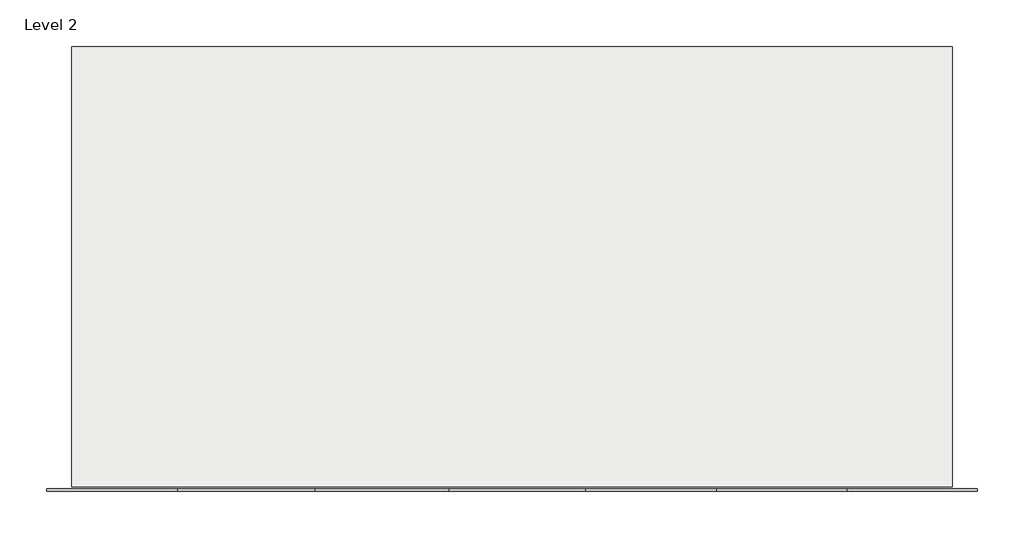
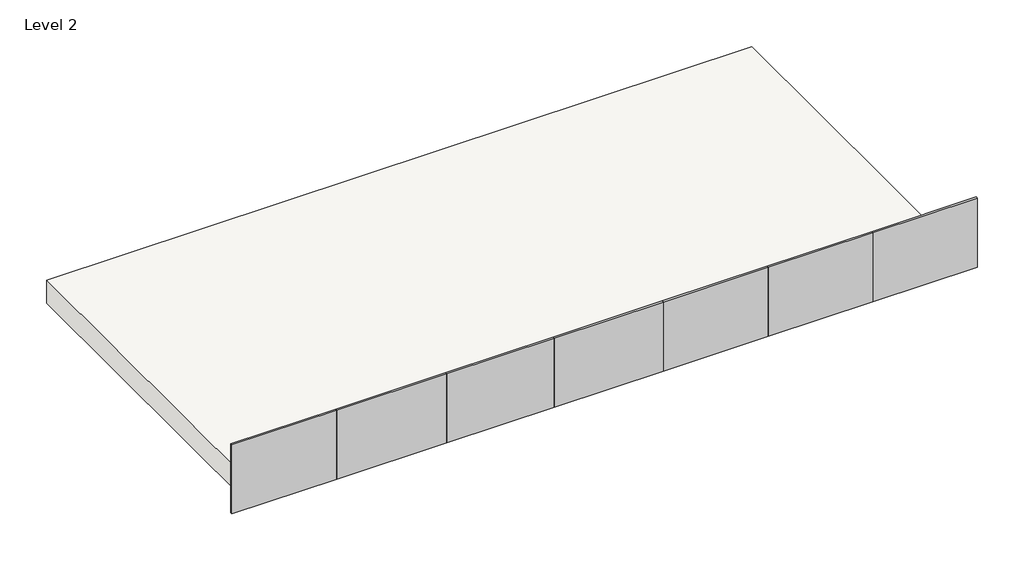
# One storey: 7 plates, 1 slab.
"""IFC4 building model written with IfcOpenShell, lengths in millimetres."""

from ifc_helpers import new_model, si_unit, frame, origin, place, context, project, spatial, polyline, outline, extrude, transform, mapped, element, save
from components import system_panel_glazed_b67e3fcc, system_panel_glazed_2ee17534, system_panel_glazed_a769a047, system_panel_glazed_6071923d, system_panel_glazed_2c8787eb

model = new_model("IFC4")

# Units and contexts
model_context = context("Model", 3, world=origin())
ifc_project = project(units=[si_unit("LENGTHUNIT", "METRE", prefix="MILLI")], contexts=[model_context])

# Site, building, storey
site = spatial("IfcSite", under=ifc_project)
building = spatial("IfcBuilding", under=site)
storey = spatial("IfcBuildingStorey", under=building, Name="Level 2", Elevation=3048.0)

# Plates
placement = place(None, origin())
system_panel_glazed_shape = system_panel_glazed_b67e3fcc(model_context)
element("IfcPlate", 1, ObjectType="System Panel : Glazed", at=placement, inside=storey, context=model_context, shape_type="MappedRepresentation", body=[
    mapped(system_panel_glazed_shape, transform((-2448.7996198, 909.2024759, 3048.0), x_axis=(-1.0, 0.0, 0.0), y_axis=(0.0, -1.0, 0.0), z_axis=(0.0, 0.0, 1.0))),
])
system_panel_glazed_2_shape = system_panel_glazed_2ee17534(model_context)
element("IfcPlate", 2, ObjectType="System Panel : Glazed", at=placement, inside=storey, context=model_context, shape_type="MappedRepresentation", body=[
    mapped(system_panel_glazed_2_shape, transform((-1103.2663854, 909.2024759, 3048.0), x_axis=(-1.0, 0.0, 0.0), y_axis=(0.0, -1.0, 0.0), z_axis=(0.0, 0.0, 1.0))),
])
system_panel_glazed_3_shape = system_panel_glazed_a769a047(model_context)
element("IfcPlate", 3, ObjectType="System Panel : Glazed", at=placement, inside=storey, context=model_context, shape_type="MappedRepresentation", body=[
    mapped(system_panel_glazed_3_shape, transform((259.7961218, 909.2024759, 3048.0), x_axis=(-1.0, 0.0, 0.0), y_axis=(0.0, -1.0, 0.0), z_axis=(0.0, 0.0, 1.0))),
])
system_panel_glazed_4_shape = system_panel_glazed_6071923d(model_context)
element("IfcPlate", 4, ObjectType="System Panel : Glazed", at=placement, inside=storey, context=model_context, shape_type="MappedRepresentation", body=[
    mapped(system_panel_glazed_4_shape, transform((1619.6759936, 909.2024759, 3048.0), x_axis=(-1.0, 0.0, 0.0), y_axis=(0.0, -1.0, 0.0), z_axis=(0.0, 0.0, 1.0))),
])
system_panel_glazed_5_shape = system_panel_glazed_2c8787eb(model_context)
element("IfcPlate", 5, ObjectType="System Panel : Glazed", at=placement, inside=storey, context=model_context, shape_type="MappedRepresentation", body=[
    mapped(system_panel_glazed_5_shape, transform((5585.3935393, 909.2024759, 3048.0), x_axis=(-1.0, 0.0, 0.0), y_axis=(0.0, -1.0, 0.0), z_axis=(0.0, 0.0, 1.0))),
])
element("IfcPlate", 6, ObjectType="System Panel : Glazed", at=placement, inside=storey, context=model_context, shape_type="MappedRepresentation", body=[
    mapped(system_panel_glazed_5_shape, transform((2961.1443475, 909.2024759, 3048.0), x_axis=(-1.0, 0.0, 0.0), y_axis=(0.0, -1.0, 0.0), z_axis=(0.0, 0.0, 1.0))),
])
element("IfcPlate", 7, ObjectType="System Panel : Glazed", at=placement, inside=storey, context=model_context, shape_type="MappedRepresentation", body=[
    mapped(system_panel_glazed_5_shape, transform((4273.2689434, 909.2024759, 3048.0), x_axis=(-1.0, 0.0, 0.0), y_axis=(0.0, -1.0, 0.0), z_axis=(0.0, 0.0, 1.0))),
])

# Slab
element("IfcSlab", 8, ObjectType="Generic - 12\"", at=placement, inside=storey, context=model_context, shape_type="SweptSolid", body=[
    extrude(outline(polyline([(5987.4558373, 909.2024759), (-2851.7441627, 909.2024759), (-2851.7441627, 5328.8024759), (5987.4558373, 5328.8024759), (5987.4558373, 909.2024759)])), frame((0.0, 0.0, 3048.0), z_axis=(0.0, 0.0, 1.0), x_axis=(1.0, 0.0, 0.0)), (0.0, 0.0, 1.0), 304.8),
])

save(model, "model.ifc")
